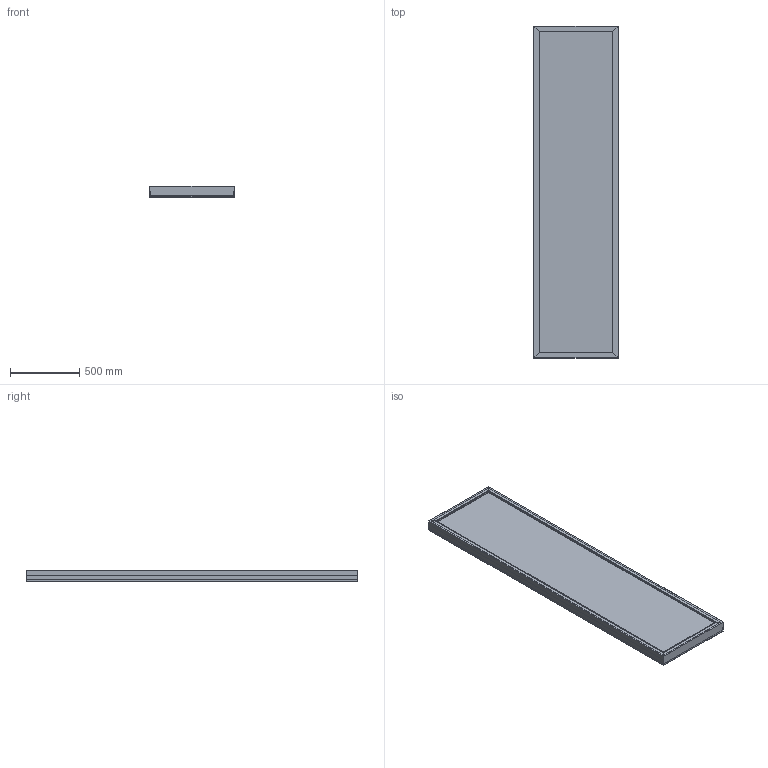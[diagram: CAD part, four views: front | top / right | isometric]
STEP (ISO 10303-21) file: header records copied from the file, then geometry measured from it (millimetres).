
FILE_DESCRIPTION (( 'STEP AP203' ), '1' );
FILE_NAME ('Slotted UpBright® Illuminated Retail Display System-610.STEP', '2026-04-02T08:51:28', ( '' ), ( '' ), 'SwSTEP 2.0', 'SolidWorks 2025', '' );
FILE_SCHEMA (( 'CONFIG_CONTROL_DESIGN' ));
Length unit declared in the file: millimetre
Products named in the file (1): Slotted UpBright® Illuminated Retail Display System-610
Bounding box: 609.75 x 2400 x 80 mm (x, y, z)
Volume: 6440116 mm3; surface area: 7889622 mm2
Topology: 6 solids, 6 shells, 390 faces, 1356 edges, 904 vertices
Faces by surface type: plane 342, cylinder 48
Entity records: 14671 total; most frequent: CARTESIAN_POINT 2939, ORIENTED_EDGE 2712, DIRECTION 2042, EDGE_CURVE 1356, LINE 1260, VECTOR 1260, VERTEX_POINT 904, EDGE_LOOP 468
